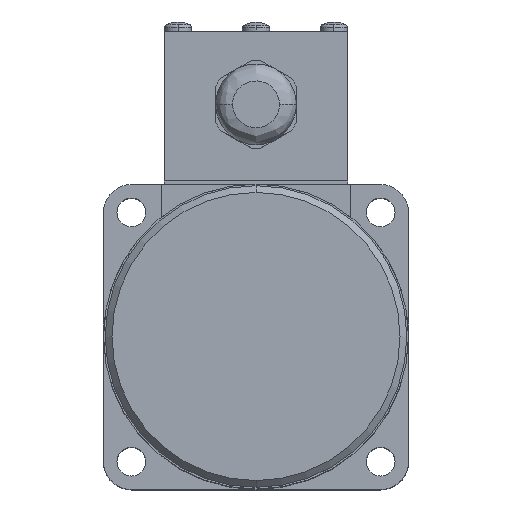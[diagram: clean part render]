
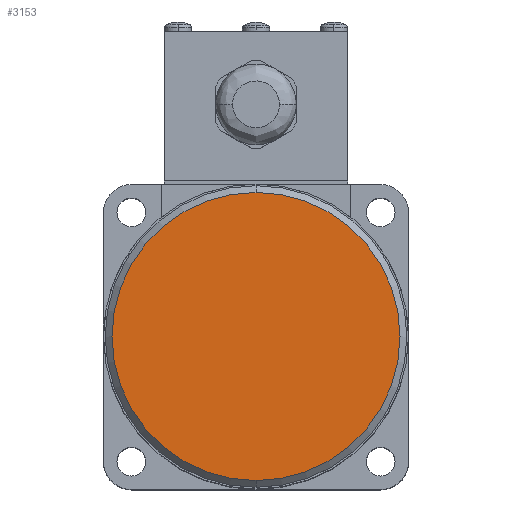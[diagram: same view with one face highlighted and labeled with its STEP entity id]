
A CAD part, top view. The second image highlights one B-rep face of the part: STEP entity #3153.
In plain terms, the highlighted planar face has unit normal (0, 0, 1).
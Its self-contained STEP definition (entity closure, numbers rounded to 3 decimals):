
#263 = VERTEX_POINT ( 'NONE', #1403 ) ;
#1403 = CARTESIAN_POINT ( 'NONE',  ( 0., 42.5, 105. ) ) ;
#1814 = EDGE_CURVE ( 'NONE', #263, #3023, #6663, .T. ) ;
#2391 = DIRECTION ( 'NONE',  ( 0., 1., 0. ) ) ;
#2392 = DIRECTION ( 'NONE',  ( 0., 0., -1. ) ) ;
#2393 = CARTESIAN_POINT ( 'NONE',  ( 0., 0., 105. ) ) ;
#3023 = VERTEX_POINT ( 'NONE', #5008 ) ;
#3079 = CIRCLE ( 'NONE', #3092, 42.5 ) ;
#3092 = AXIS2_PLACEMENT_3D ( 'NONE', #7077, #7076, #7075 ) ;
#3153 = ADVANCED_FACE ( 'NONE', ( #3958 ), #6137, .T. ) ;
#3219 = EDGE_CURVE ( 'NONE', #3023, #263, #3079, .T. ) ;
#3393 = ORIENTED_EDGE ( 'NONE', *, *, #1814, .F. ) ;
#3397 = ORIENTED_EDGE ( 'NONE', *, *, #3219, .F. ) ;
#3958 = FACE_OUTER_BOUND ( 'NONE', #7249, .T. ) ;
#5008 = CARTESIAN_POINT ( 'NONE',  ( 0., -42.5, 105. ) ) ;
#6006 = AXIS2_PLACEMENT_3D ( 'NONE', #6145, #6106, #6275 ) ;
#6106 = DIRECTION ( 'NONE',  ( 0., 0., 1. ) ) ;
#6137 = PLANE ( 'NONE',  #6006 ) ;
#6145 = CARTESIAN_POINT ( 'NONE',  ( 0., 44.5, 105. ) ) ;
#6275 = DIRECTION ( 'NONE',  ( 0., -1., 0. ) ) ;
#6634 = AXIS2_PLACEMENT_3D ( 'NONE', #2393, #2392, #2391 ) ;
#6663 = CIRCLE ( 'NONE', #6634, 42.5 ) ;
#7075 = DIRECTION ( 'NONE',  ( 0., 1., 0. ) ) ;
#7076 = DIRECTION ( 'NONE',  ( 0., 0., -1. ) ) ;
#7077 = CARTESIAN_POINT ( 'NONE',  ( 0., 0., 105. ) ) ;
#7249 = EDGE_LOOP ( 'NONE', ( #3393, #3397 ) ) ;
